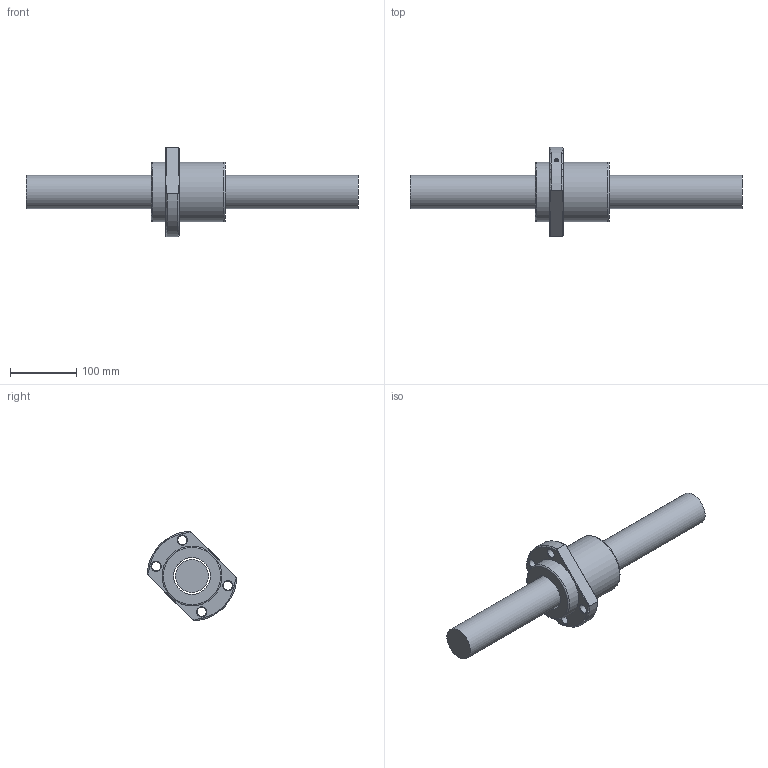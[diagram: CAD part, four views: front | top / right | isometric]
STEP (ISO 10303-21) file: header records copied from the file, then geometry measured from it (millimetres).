
FILE_DESCRIPTION (( 'STEP AP203' ), '1' );
FILE_NAME ('SFY050100-1.6.step', '2024-05-21T08:57:47', ( '' ), ( '' ), 'SwSTEP 2.0', 'SolidWorks 2022', '' );
FILE_SCHEMA (( 'CONFIG_CONTROL_DESIGN' ));
Length unit declared in the file: millimetre
Products named in the file (1): SFY050100-1.6
Bounding box: 500 x 134.91 x 134.91 mm (x, y, z)
Volume: 1509535.2 mm3; surface area: 155103.7 mm2
Topology: 2 solids, 2 shells, 51 faces, 123 edges, 78 vertices
Faces by surface type: cylinder 18, plane 13, cone 9, torus 6, bspline 5
Full cylindrical faces by diameter (mm): 4 x1, 5 x6, 14 x4, 50 x1, 55.1 x1, 90 x2
Entity records: 3025 total; most frequent: CARTESIAN_POINT 2064, DIRECTION 170, ORIENTED_EDGE 156, EDGE_LOOP 80, EDGE_CURVE 78, AXIS2_PLACEMENT_3D 77, VERTEX_POINT 62, FACE_OUTER_BOUND 57
